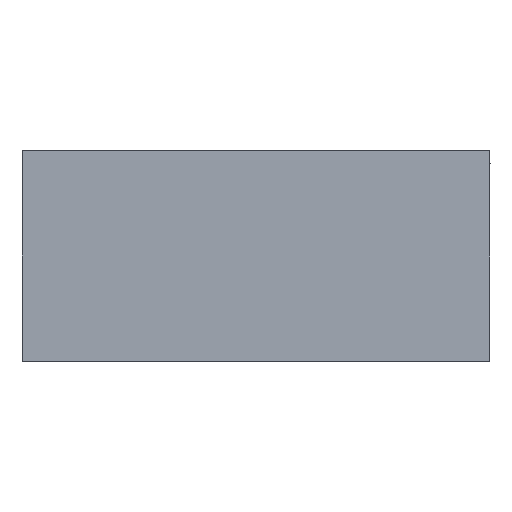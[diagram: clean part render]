
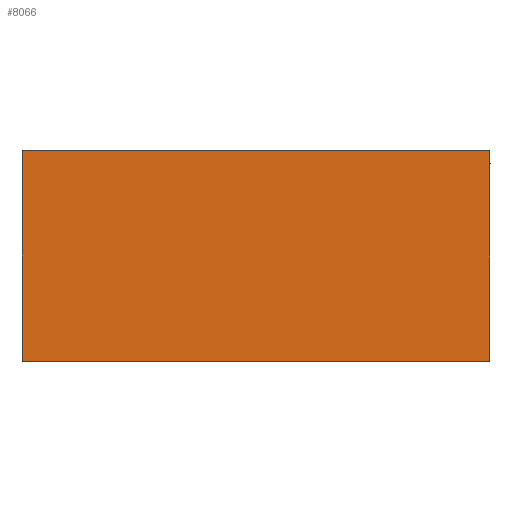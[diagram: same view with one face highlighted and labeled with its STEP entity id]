
A CAD part, left-side view. The second image highlights one B-rep face of the part: STEP entity #8066.
In plain terms, the highlighted planar face has unit normal (-1, 0, 0).
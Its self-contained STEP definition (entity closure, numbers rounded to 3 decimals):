
#58 = EDGE_CURVE ( 'NONE', #46055, #19652, #2603, .T. ) ;
#1015 = CARTESIAN_POINT ( 'NONE',  ( -508.373, -900., 2000. ) ) ;
#2603 = LINE ( 'NONE', #41319, #41200 ) ;
#4286 = CARTESIAN_POINT ( 'NONE',  ( -508.373, -900., 0. ) ) ;
#5429 = LINE ( 'NONE', #46704, #20715 ) ;
#8066 = ADVANCED_FACE ( 'NONE', ( #11652 ), #59819, .F. ) ;
#8368 = VERTEX_POINT ( 'NONE', #38638 ) ;
#8855 = DIRECTION ( 'NONE',  ( 0., 0., -1. ) ) ;
#11652 = FACE_OUTER_BOUND ( 'NONE', #18904, .T. ) ;
#15581 = ORIENTED_EDGE ( 'NONE', *, *, #32328, .T. ) ;
#18904 = EDGE_LOOP ( 'NONE', ( #15581, #69412, #52877, #83094 ) ) ;
#19301 = DIRECTION ( 'NONE',  ( 0., 0., -1. ) ) ;
#19652 = VERTEX_POINT ( 'NONE', #4286 ) ;
#20108 = VECTOR ( 'NONE', #35081, 1000. ) ;
#20314 = EDGE_CURVE ( 'NONE', #45434, #46055, #22116, .T. ) ;
#20715 = VECTOR ( 'NONE', #53215, 1000. ) ;
#20739 = DIRECTION ( 'NONE',  ( 0., 0., -1. ) ) ;
#22116 = LINE ( 'NONE', #28592, #20108 ) ;
#23036 = AXIS2_PLACEMENT_3D ( 'NONE', #72328, #76409, #19301 ) ;
#23485 = LINE ( 'NONE', #46481, #71198 ) ;
#28592 = CARTESIAN_POINT ( 'NONE',  ( -508.373, -900., 2000. ) ) ;
#32328 = EDGE_CURVE ( 'NONE', #8368, #19652, #5429, .T. ) ;
#35081 = DIRECTION ( 'NONE',  ( 0., -1., 0. ) ) ;
#38638 = CARTESIAN_POINT ( 'NONE',  ( -508.373, 0., 0. ) ) ;
#41200 = VECTOR ( 'NONE', #8855, 1000. ) ;
#41319 = CARTESIAN_POINT ( 'NONE',  ( -508.373, -900., 2000. ) ) ;
#45434 = VERTEX_POINT ( 'NONE', #65526 ) ;
#46055 = VERTEX_POINT ( 'NONE', #1015 ) ;
#46481 = CARTESIAN_POINT ( 'NONE',  ( -508.373, 0., 2000. ) ) ;
#46704 = CARTESIAN_POINT ( 'NONE',  ( -508.373, -900., 0. ) ) ;
#52877 = ORIENTED_EDGE ( 'NONE', *, *, #20314, .F. ) ;
#53215 = DIRECTION ( 'NONE',  ( 0., -1., 0. ) ) ;
#59819 = PLANE ( 'NONE',  #23036 ) ;
#65526 = CARTESIAN_POINT ( 'NONE',  ( -508.373, 0., 2000. ) ) ;
#69412 = ORIENTED_EDGE ( 'NONE', *, *, #58, .F. ) ;
#71198 = VECTOR ( 'NONE', #20739, 1000. ) ;
#72328 = CARTESIAN_POINT ( 'NONE',  ( -508.373, -900., 2000. ) ) ;
#73227 = EDGE_CURVE ( 'NONE', #45434, #8368, #23485, .T. ) ;
#76409 = DIRECTION ( 'NONE',  ( 1., 0., 0. ) ) ;
#83094 = ORIENTED_EDGE ( 'NONE', *, *, #73227, .T. ) ;
